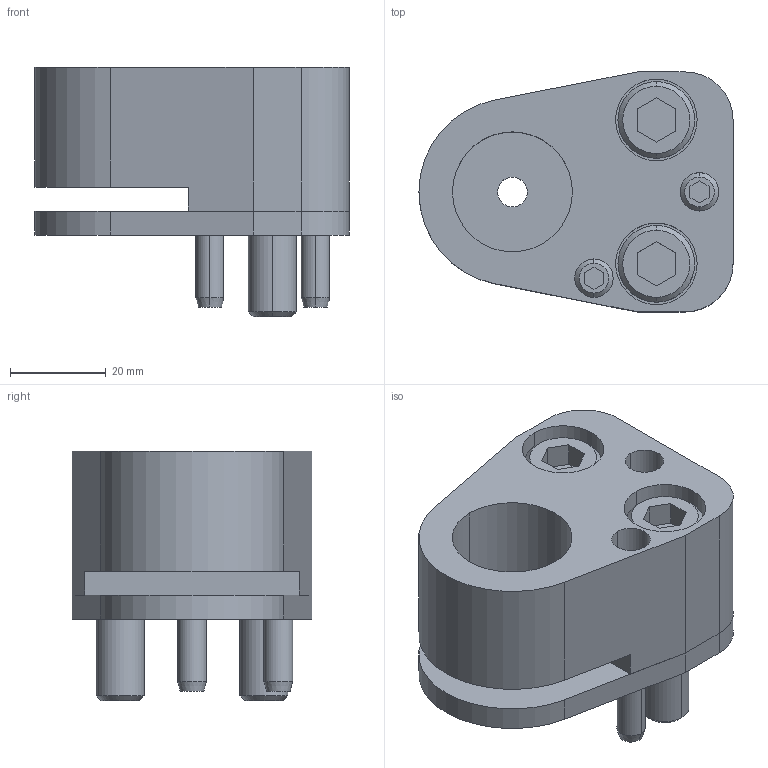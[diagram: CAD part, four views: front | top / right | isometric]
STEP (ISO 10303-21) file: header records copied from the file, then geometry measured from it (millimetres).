
FILE_DESCRIPTION(/* description */ (''),/* implementation_level */ '2;1');
FILE_NAME(/* name */ '3d_dp-fp25_02830_r00.stp',/* time_stamp */ '2011-01-10T14:15:55+09:00',/* author */ ('MISUMI'),/* organization */ (''),/* preprocessor_version */ 'ST-DEVELOPER v11',/* originating_system */ 'UGS - NX 5.0',/* authorisation */ '');
FILE_SCHEMA (('CONFIG_CONTROL_DESIGN'));
Length unit declared in the file: millimetre
Products named in the file (1): 3d_dp-fp25_02830_r00
Bounding box: 65.5 x 50 x 52 mm (x, y, z)
Volume: 76216.5 mm3; surface area: 28496.1 mm2
Topology: 8 solids, 8 shells, 154 faces, 350 edges, 225 vertices
Faces by surface type: plane 68, cylinder 60, cone 26
Entity records: 4494 total; most frequent: DIRECTION 802, CARTESIAN_POINT 781, ORIENTED_EDGE 700, EDGE_CURVE 350, AXIS2_PLACEMENT_3D 302, VERTEX_POINT 225, LINE 198, VECTOR 198
